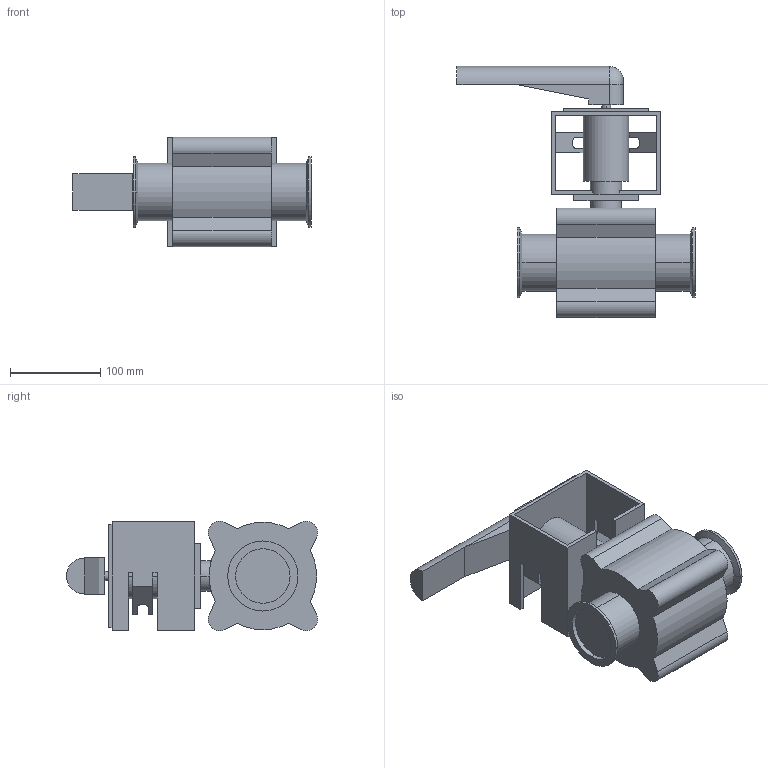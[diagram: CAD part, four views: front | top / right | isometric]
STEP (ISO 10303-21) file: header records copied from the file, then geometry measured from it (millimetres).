
FILE_DESCRIPTION(('Creo Elements/Direct Modeling STEP Export'),'2;1');
FILE_NAME('BLV1-2.5T-HL-12CL.stp','2019-05-10T 8:13:53',(''),(''),'Creo Elements/Direct Modeling STEP processor for AP214 (Solid Model)','Creo Elements/Direct Modeling 19.0F 14-Feb-2017 (C) Parametric Technology GmbH','');
FILE_SCHEMA(('AUTOMOTIVE_DESIGN { 1 0 10303 214 1 1 1 1 }'));
Length unit declared in the file: millimetre
Products named in the file (2): BLV1-2.5T-HL-12CL
Assembly tree (1 placements, depth 2):
  BLV1-2.5T-HL-12CL
    BLV1-2.5T-HL-12CL
Bounding box: 263.5 x 277.84 x 121.07 mm (x, y, z)
Volume: 2291631.2 mm3; surface area: 239100.6 mm2
Topology: 1 solids, 1 shells, 116 faces, 312 edges, 206 vertices
Faces by surface type: plane 76, cylinder 35, cone 4, torus 1
Entity records: 3536 total; most frequent: CARTESIAN_POINT 647, ORIENTED_EDGE 624, DIRECTION 549, EDGE_CURVE 312, VECTOR 231, LINE 231, VERTEX_POINT 206, AXIS2_PLACEMENT_3D 159
